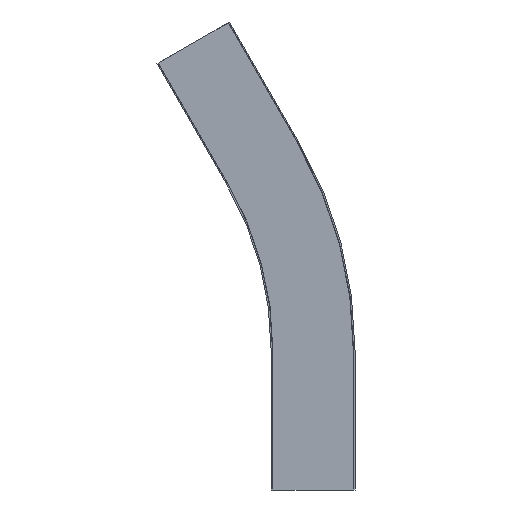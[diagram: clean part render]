
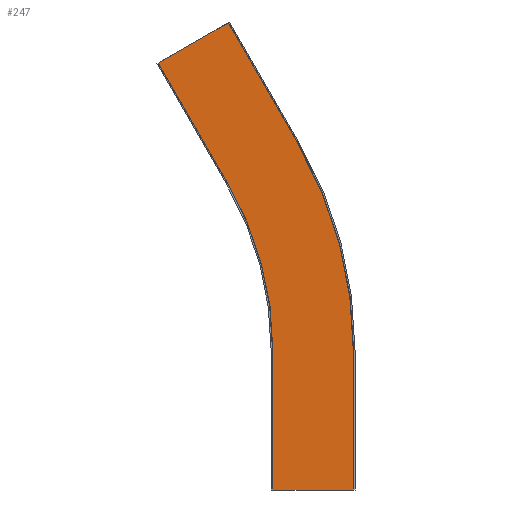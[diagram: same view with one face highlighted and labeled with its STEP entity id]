
A CAD part, front view. The second image highlights one B-rep face of the part: STEP entity #247.
In plain terms, the highlighted planar face has unit normal (0, -1, 0).
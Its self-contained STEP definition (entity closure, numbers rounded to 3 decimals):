
#159 = VECTOR ( 'NONE', #2731, 1000. ) ;
#163 = LINE ( 'NONE', #2730, #159 ) ;
#197 = VECTOR ( 'NONE', #2721, 1000. ) ;
#210 = LINE ( 'NONE', #2713, #197 ) ;
#247 = ADVANCED_FACE ( 'NONE', ( #1298 ), #925, .T. ) ;
#510 = VECTOR ( 'NONE', #2358, 1000. ) ;
#512 = VECTOR ( 'NONE', #2359, 1000. ) ;
#514 = VECTOR ( 'NONE', #2352, 1000. ) ;
#515 = LINE ( 'NONE', #2361, #512 ) ;
#516 = VECTOR ( 'NONE', #2347, 1000. ) ;
#517 = LINE ( 'NONE', #3138, #510 ) ;
#519 = LINE ( 'NONE', #2345, #516 ) ;
#521 = LINE ( 'NONE', #2868, #514 ) ;
#713 = AXIS2_PLACEMENT_3D ( 'NONE', #2167, #2168, #2169 ) ;
#715 = AXIS2_PLACEMENT_3D ( 'NONE', #2177, #2178, #2179 ) ;
#792 = CIRCLE ( 'NONE', #715, 443.15 ) ;
#797 = CIRCLE ( 'NONE', #713, 356.85 ) ;
#898 = DIRECTION ( 'NONE',  ( 1., 0., 0. ) ) ;
#907 = DIRECTION ( 'NONE',  ( 0., -1., 0. ) ) ;
#920 = CARTESIAN_POINT ( 'NONE',  ( -43.15, -42., 150. ) ) ;
#925 = PLANE ( 'NONE',  #1240 ) ;
#1200 = EDGE_CURVE ( 'NONE', #1599, #1682, #519, .T. ) ;
#1201 = EDGE_CURVE ( 'NONE', #1675, #1682, #521, .T. ) ;
#1202 = EDGE_CURVE ( 'NONE', #1580, #1675, #515, .T. ) ;
#1203 = EDGE_CURVE ( 'NONE', #1595, #1609, #517, .T. ) ;
#1240 = AXIS2_PLACEMENT_3D ( 'NONE', #920, #907, #898 ) ;
#1298 = FACE_OUTER_BOUND ( 'NONE', #1492, .T. ) ;
#1492 = EDGE_LOOP ( 'NONE', ( #1740, #1741, #1742, #1743, #1744, #1745, #1746, #1747 ) ) ;
#1580 = VERTEX_POINT ( 'NONE', #2421 ) ;
#1589 = VERTEX_POINT ( 'NONE', #2430 ) ;
#1590 = VERTEX_POINT ( 'NONE', #2431 ) ;
#1595 = VERTEX_POINT ( 'NONE', #2436 ) ;
#1599 = VERTEX_POINT ( 'NONE', #2440 ) ;
#1609 = VERTEX_POINT ( 'NONE', #2450 ) ;
#1675 = VERTEX_POINT ( 'NONE', #2516 ) ;
#1682 = VERTEX_POINT ( 'NONE', #2523 ) ;
#1740 = ORIENTED_EDGE ( 'NONE', *, *, #1201, .F. ) ;
#1741 = ORIENTED_EDGE ( 'NONE', *, *, #1202, .F. ) ;
#1742 = ORIENTED_EDGE ( 'NONE', *, *, #3066, .T. ) ;
#1743 = ORIENTED_EDGE ( 'NONE', *, *, #2990, .T. ) ;
#1744 = ORIENTED_EDGE ( 'NONE', *, *, #1203, .T. ) ;
#1745 = ORIENTED_EDGE ( 'NONE', *, *, #2985, .F. ) ;
#1746 = ORIENTED_EDGE ( 'NONE', *, *, #3063, .F. ) ;
#1747 = ORIENTED_EDGE ( 'NONE', *, *, #1200, .T. ) ;
#2167 = CARTESIAN_POINT ( 'NONE',  ( -400., -42., 150. ) ) ;
#2168 = DIRECTION ( 'NONE',  ( 0., -1., 0. ) ) ;
#2169 = DIRECTION ( 'NONE',  ( 0., 0., -1. ) ) ;
#2177 = CARTESIAN_POINT ( 'NONE',  ( -400., -42., 150. ) ) ;
#2178 = DIRECTION ( 'NONE',  ( 0., -1., 0. ) ) ;
#2179 = DIRECTION ( 'NONE',  ( 0., 0., -1. ) ) ;
#2345 = CARTESIAN_POINT ( 'NONE',  ( -43.15, -42., 150. ) ) ;
#2347 = DIRECTION ( 'NONE',  ( 0., 0., -1. ) ) ;
#2352 = DIRECTION ( 'NONE',  ( -1., 0., 0. ) ) ;
#2358 = DIRECTION ( 'NONE',  ( -0.866, 0., -0.5 ) ) ;
#2359 = DIRECTION ( 'NONE',  ( 0., 0., -1. ) ) ;
#2361 = CARTESIAN_POINT ( 'NONE',  ( 43.15, -42., 150. ) ) ;
#2421 = CARTESIAN_POINT ( 'NONE',  ( 43.15, -42., 150. ) ) ;
#2430 = CARTESIAN_POINT ( 'NONE',  ( -16.221, -42., 371.575 ) ) ;
#2431 = CARTESIAN_POINT ( 'NONE',  ( -90.959, -42., 328.425 ) ) ;
#2436 = CARTESIAN_POINT ( 'NONE',  ( -91.221, -42., 501.479 ) ) ;
#2440 = CARTESIAN_POINT ( 'NONE',  ( -43.15, -42., 150. ) ) ;
#2450 = CARTESIAN_POINT ( 'NONE',  ( -165.959, -42., 458.329 ) ) ;
#2516 = CARTESIAN_POINT ( 'NONE',  ( 43.15, -42., 0. ) ) ;
#2523 = CARTESIAN_POINT ( 'NONE',  ( -43.15, -42., 0. ) ) ;
#2713 = CARTESIAN_POINT ( 'NONE',  ( -90.959, -42., 328.425 ) ) ;
#2721 = DIRECTION ( 'NONE',  ( -0.5, 0., 0.866 ) ) ;
#2730 = CARTESIAN_POINT ( 'NONE',  ( -16.221, -42., 371.575 ) ) ;
#2731 = DIRECTION ( 'NONE',  ( -0.5, 0., 0.866 ) ) ;
#2868 = CARTESIAN_POINT ( 'NONE',  ( -43.15, -42., 0. ) ) ;
#2985 = EDGE_CURVE ( 'NONE', #1590, #1609, #210, .T. ) ;
#2990 = EDGE_CURVE ( 'Edge42', #1589, #1595, #163, .T. ) ;
#3063 = EDGE_CURVE ( 'NONE', #1599, #1590, #797, .T. ) ;
#3066 = EDGE_CURVE ( 'Edge18', #1580, #1589, #792, .T. ) ;
#3138 = CARTESIAN_POINT ( 'NONE',  ( -165.959, -42., 458.329 ) ) ;
